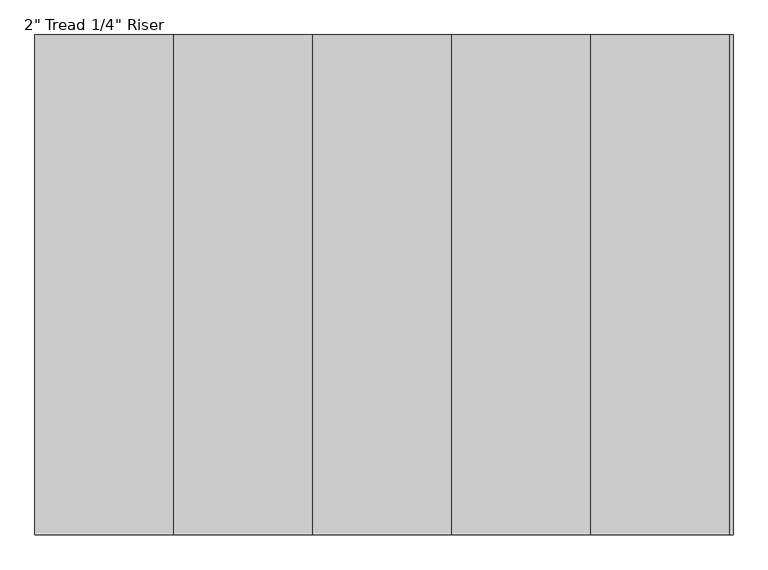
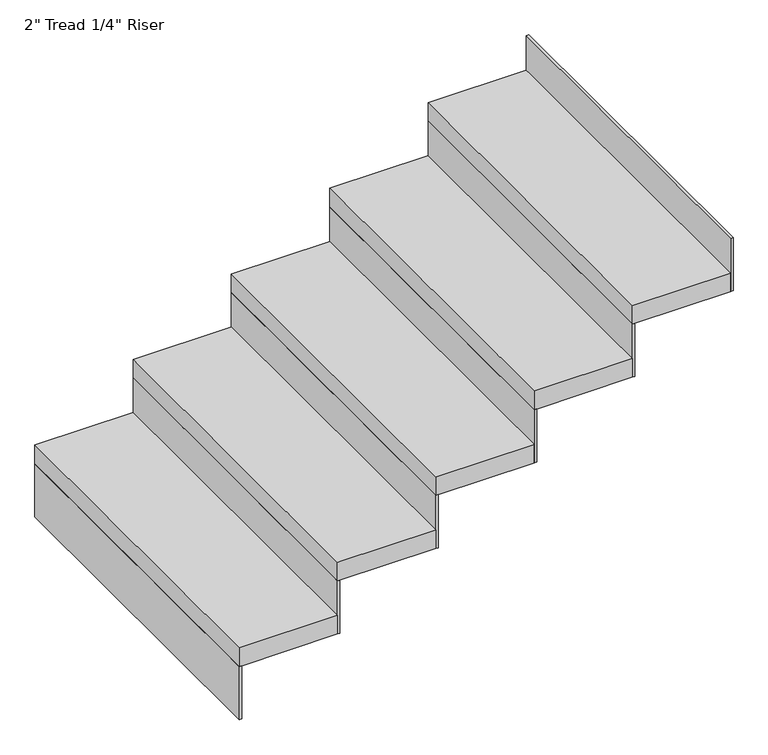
"""IFC4 building model written with IfcOpenShell, lengths in millimetres: stair flight geometry."""

from ifc_helpers import new_model, si_unit, frame, origin, place, context, project, spatial, polyline, outline, extrude, source, transform, mapped, element, save


def stair_flight_90f3d1f1(model_context):
    return source(origin(), model_context, "Body", "SweptSolid", [
        extrude(outline(polyline([(17525.4660021, 21385.3361774), (17519.1160021, 21385.3361774), (17519.1160021, 22299.7361774), (17525.4660021, 22299.7361774), (17525.4660021, 21385.3361774)])), frame((0.0, 0.0, 2126.3428571), z_axis=(0.0, 0.0, 1.0), x_axis=(1.0, 0.0, 0.0)), (0.0, 0.0, 1.0), 145.1428571),
        extrude(outline(polyline([(17773.1160021, 22299.7361774), (17773.1160021, 21385.3361774), (17519.1160021, 21385.3361774), (17519.1160021, 22299.7361774), (17773.1160021, 22299.7361774)])), frame((0.0, 0.0, 2271.4857143), z_axis=(0.0, 0.0, 1.0), x_axis=(1.0, 0.0, 0.0)), (0.0, 0.0, 1.0), 50.8),
        extrude(outline(polyline([(17779.4660021, 21385.3361774), (17773.1160021, 21385.3361774), (17773.1160021, 22299.7361774), (17779.4660021, 22299.7361774), (17779.4660021, 21385.3361774)])), frame((0.0, 0.0, 2271.4857143), z_axis=(0.0, 0.0, 1.0), x_axis=(1.0, 0.0, 0.0)), (0.0, 0.0, 1.0), 145.1428571),
        extrude(outline(polyline([(18027.1160021, 22299.7361774), (18027.1160021, 21385.3361774), (17773.1160021, 21385.3361774), (17773.1160021, 22299.7361774), (18027.1160021, 22299.7361774)])), frame((0.0, 0.0, 2416.6285714), z_axis=(0.0, 0.0, 1.0), x_axis=(1.0, 0.0, 0.0)), (0.0, 0.0, 1.0), 50.8),
        extrude(outline(polyline([(18033.4660021, 21385.3361774), (18027.1160021, 21385.3361774), (18027.1160021, 22299.7361774), (18033.4660021, 22299.7361774), (18033.4660021, 21385.3361774)])), frame((0.0, 0.0, 2416.6285714), z_axis=(0.0, 0.0, 1.0), x_axis=(1.0, 0.0, 0.0)), (0.0, 0.0, 1.0), 145.1428571),
        extrude(outline(polyline([(18281.1160021, 22299.7361774), (18281.1160021, 21385.3361774), (18027.1160021, 21385.3361774), (18027.1160021, 22299.7361774), (18281.1160021, 22299.7361774)])), frame((0.0, 0.0, 2561.7714286), z_axis=(0.0, 0.0, 1.0), x_axis=(1.0, 0.0, 0.0)), (0.0, 0.0, 1.0), 50.8),
        extrude(outline(polyline([(18287.4660021, 21385.3361774), (18281.1160021, 21385.3361774), (18281.1160021, 22299.7361774), (18287.4660021, 22299.7361774), (18287.4660021, 21385.3361774)])), frame((0.0, 0.0, 2561.7714286), z_axis=(0.0, 0.0, 1.0), x_axis=(1.0, 0.0, 0.0)), (0.0, 0.0, 1.0), 145.1428571),
        extrude(outline(polyline([(18535.1160021, 22299.7361774), (18535.1160021, 21385.3361774), (18281.1160021, 21385.3361774), (18281.1160021, 22299.7361774), (18535.1160021, 22299.7361774)])), frame((0.0, 0.0, 2706.9142857), z_axis=(0.0, 0.0, 1.0), x_axis=(1.0, 0.0, 0.0)), (0.0, 0.0, 1.0), 50.8),
        extrude(outline(polyline([(18541.4660021, 21385.3361774), (18535.1160021, 21385.3361774), (18535.1160021, 22299.7361774), (18541.4660021, 22299.7361774), (18541.4660021, 21385.3361774)])), frame((0.0, 0.0, 2706.9142857), z_axis=(0.0, 0.0, 1.0), x_axis=(1.0, 0.0, 0.0)), (0.0, 0.0, 1.0), 145.1428571),
        extrude(outline(polyline([(18795.4660021, 21385.3361774), (18789.1160021, 21385.3361774), (18789.1160021, 22299.7361774), (18795.4660021, 22299.7361774), (18795.4660021, 21385.3361774)])), frame((0.0, 0.0, 2852.0571429), z_axis=(0.0, 0.0, 1.0), x_axis=(1.0, 0.0, 0.0)), (0.0, 0.0, 1.0), 145.1428571),
        extrude(outline(polyline([(18789.1160021, 22299.7361774), (18789.1160021, 21385.3361774), (18535.1160021, 21385.3361774), (18535.1160021, 22299.7361774), (18789.1160021, 22299.7361774)])), frame((0.0, 0.0, 2852.0571429), z_axis=(0.0, 0.0, 1.0), x_axis=(1.0, 0.0, 0.0)), (0.0, 0.0, 1.0), 50.8),
    ])


if __name__ == "__main__":
    model = new_model("IFC4")
    model_context = context("Model", 3, world=origin())
    ifc_project = project(units=[si_unit("LENGTHUNIT", "METRE", prefix="MILLI")], contexts=[model_context])
    site = spatial("IfcSite", under=ifc_project)
    building = spatial("IfcBuilding", under=site)
    placement = place(None, origin())
    stair_flight_shape = stair_flight_90f3d1f1(model_context)
    element("IfcStairFlight", 1, ObjectType="2\" Tread 1/4\" Riser", at=placement, inside=building, context=model_context, shape_type="MappedRepresentation", body=[
        mapped(stair_flight_shape, transform((0.0, 0.0, 0.0), x_axis=(1.0, 0.0, 0.0), y_axis=(0.0, 1.0, 0.0), z_axis=(0.0, 0.0, 1.0))),
    ])
    save(model, "model.ifc")
